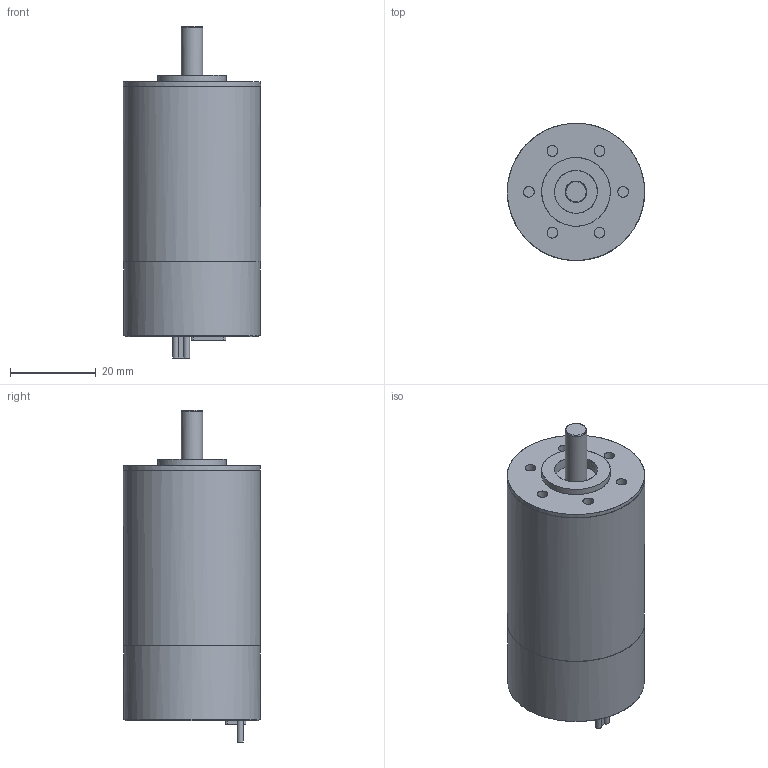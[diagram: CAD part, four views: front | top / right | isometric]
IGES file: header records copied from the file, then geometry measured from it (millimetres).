
Global section: file name: R:\a_public\Organisationsentwicklung\Aufgaben\CAD_Modelle_Vertrieb\Kombi\32xx_Bx4_SCDC\3242.BX4_SCDC.igs; native system: NX V7.5; preprocessor: SIEMENS PLM Software NX 7.5; author: DR. FRITZ FAULHABER GmbH & Co. KG; organization: DR. FRITZ FAULHABER GmbH & Co. KG; date: 20121031.090504; units: millimetre
Bounding box: 32 x 32 x 77.4 mm (x, y, z)
Surface area: 8219.1 mm2 (no closed solid volume)
Topology: 0 solids, 0 shells, 52 faces, 482 edges, 456 vertices
Faces by surface type: bspline 52
